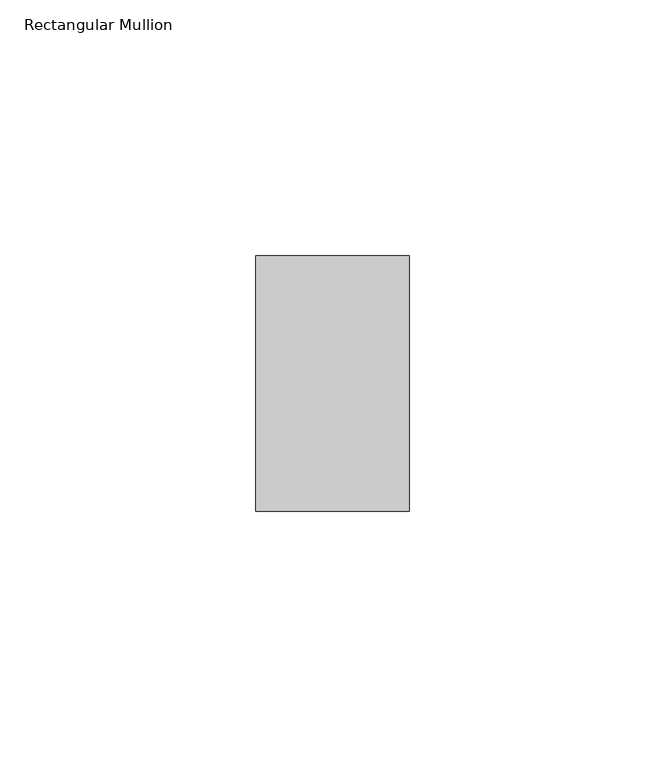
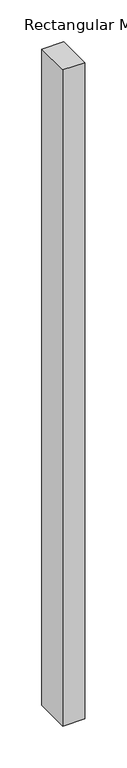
"""IFC4 building model written with IfcOpenShell, lengths in millimetres: member geometry, Rectangular Mullion : ARQ_TV_MULL_50x30mm."""

from ifc_helpers import new_model, si_unit, frame, origin, place, context, project, spatial, polyline, outline, extrude, source, transform, mapped, element, save


def rectangular_mullion_b22e6fb3(model_context):
    return source(origin(), model_context, "Body", "SweptSolid", [
        extrude(outline(polyline([(0.0, 25.0), (0.0, -25.0), (-30.0, -25.0), (-30.0, 25.0), (0.0, 25.0)])), frame((0.0, 0.0, -955.0562223), z_axis=(0.0, 0.0, 1.0), x_axis=(1.0, 0.0, 0.0)), (0.0, 0.0, 1.0), 955.0562223),
    ])


if __name__ == "__main__":
    model = new_model("IFC4")
    model_context = context("Model", 3, world=origin())
    ifc_project = project(units=[si_unit("LENGTHUNIT", "METRE", prefix="MILLI")], contexts=[model_context])
    site = spatial("IfcSite", under=ifc_project)
    building = spatial("IfcBuilding", under=site)
    placement = place(None, origin())
    rectangular_mullion_shape = rectangular_mullion_b22e6fb3(model_context)
    element("IfcMember", 1, ObjectType="Rectangular Mullion : ARQ_TV_MULL_50x30mm", at=placement, inside=building, context=model_context, shape_type="MappedRepresentation", body=[
        mapped(rectangular_mullion_shape, transform((0.0, 0.0, 0.0), x_axis=(1.0, 0.0, 0.0), y_axis=(0.0, 1.0, 0.0), z_axis=(0.0, 0.0, 1.0))),
    ])
    save(model, "model.ifc")
